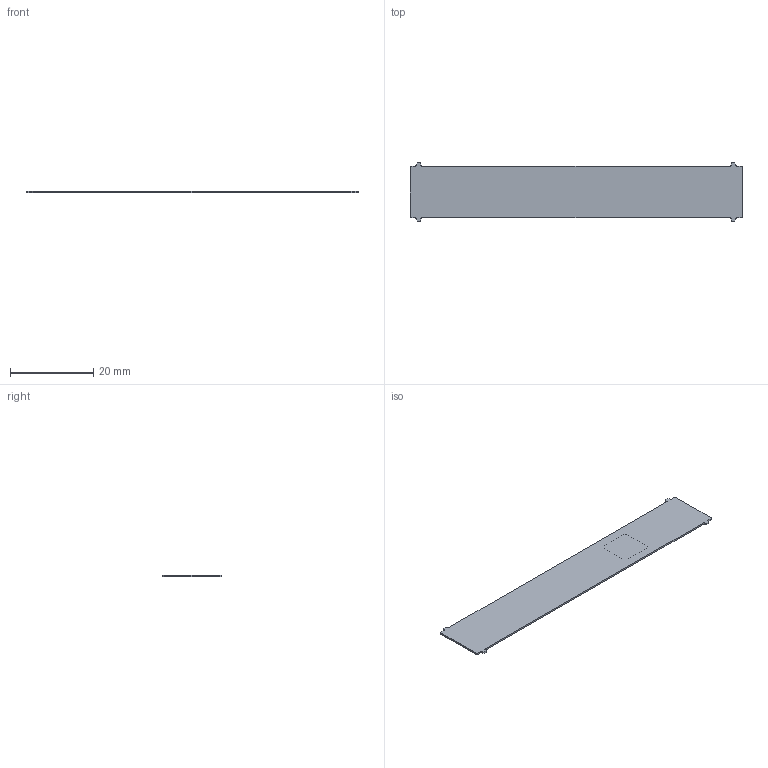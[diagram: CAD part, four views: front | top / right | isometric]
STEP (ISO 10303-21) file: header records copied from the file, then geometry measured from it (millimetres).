
FILE_DESCRIPTION(('Open CASCADE Model'),'2;1');
FILE_NAME('Open CASCADE Shape Model','2022-03-09T11:34:20',('Author'),( 'Open CASCADE'),'Open CASCADE STEP processor 6.8','Open CASCADE 6.8' ,'Unknown');
FILE_SCHEMA(('AUTOMOTIVE_DESIGN { 1 0 10303 214 1 1 1 1 }'));
Length unit declared in the file: millimetre
Products named in the file (6): PCB; Board; Open CASCADE STEP translator 6.8 2.1.1; LA1; 6411200288; Extruded
Assembly tree (5 placements, depth 4):
  PCB
    Board
      Open CASCADE STEP translator 6.8 2.1.1
    LA1
      6411200288
        Extruded
Bounding box: 80 x 14 x 0.41 mm (x, y, z)
Volume: 421.5 mm3; surface area: 2214.6 mm2
Topology: 2 solids, 2 shells, 56 faces, 156 edges, 104 vertices
Faces by surface type: plane 40, cylinder 16
Entity records: 1912 total; most frequent: CARTESIAN_POINT 322, DIRECTION 312, ORIENTED_EDGE 312, EDGE_CURVE 156, LINE 124, VECTOR 124, VERTEX_POINT 104, AXIS2_PLACEMENT_3D 94
